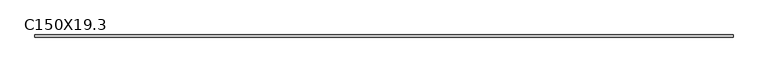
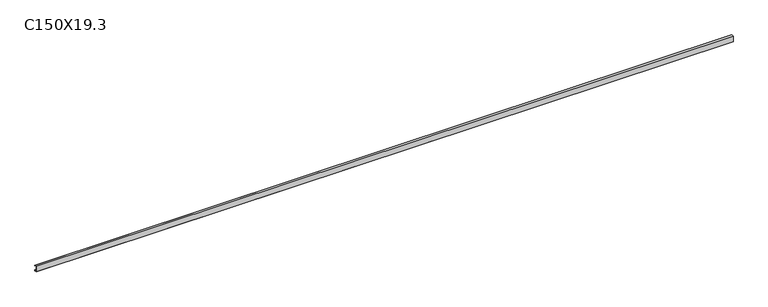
"""IFC4 building model written with IfcOpenShell, lengths in millimetres: beam geometry, EST-PER-C-HGalv : C150X19.3."""

from ifc_helpers import new_model, si_unit, frame, origin, place, context, project, spatial, polyline, outline, extrude, source, transform, mapped, element, save


def c150x19_3_75f47aa1(model_context):
    return source(origin(), model_context, "Body", "SweptSolid", [
        extrude(outline(polyline([(-13.1, 80.0), (46.9, 80.0), (46.9, 60.0), (44.9, 60.0), (44.9, 78.0), (-11.1, 78.0), (-11.1, -78.0), (44.9, -78.0), (44.9, -60.0), (46.9, -60.0), (46.9, -80.0), (-13.1, -80.0), (-13.1, 80.0)])), frame((-10215.0, 0.0, 0.0), z_axis=(1.0, 0.0, 0.0), x_axis=(0.0, 1.0, 0.0)), (0.0, 0.0, 1.0), 19536.9148487),
    ])


if __name__ == "__main__":
    model = new_model("IFC4")
    model_context = context("Model", 3, world=origin())
    ifc_project = project(units=[si_unit("LENGTHUNIT", "METRE", prefix="MILLI")], contexts=[model_context])
    site = spatial("IfcSite", under=ifc_project)
    building = spatial("IfcBuilding", under=site)
    placement = place(None, origin())
    c150x19_3_shape = c150x19_3_75f47aa1(model_context)
    element("IfcBeam", 1, ObjectType="EST-PER-C-HGalv : C150X19.3", at=placement, inside=building, context=model_context, shape_type="MappedRepresentation", body=[
        mapped(c150x19_3_shape, transform((0.0, 0.0, 0.0), x_axis=(1.0, 0.0, 0.0), y_axis=(0.0, 1.0, 0.0), z_axis=(0.0, 0.0, 1.0))),
    ])
    save(model, "model.ifc")
